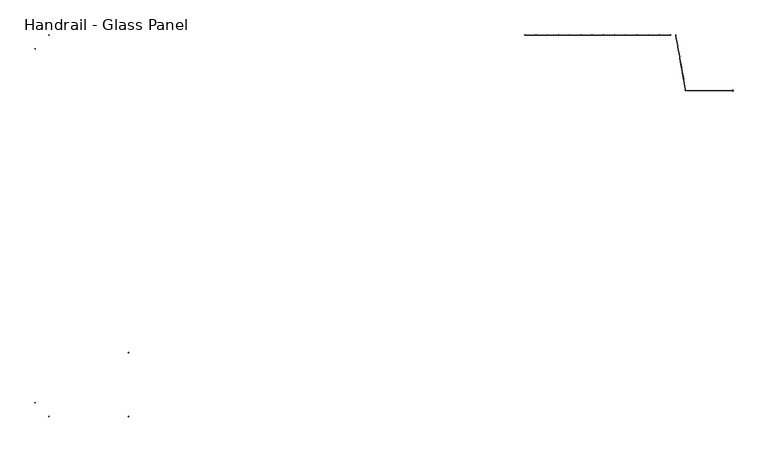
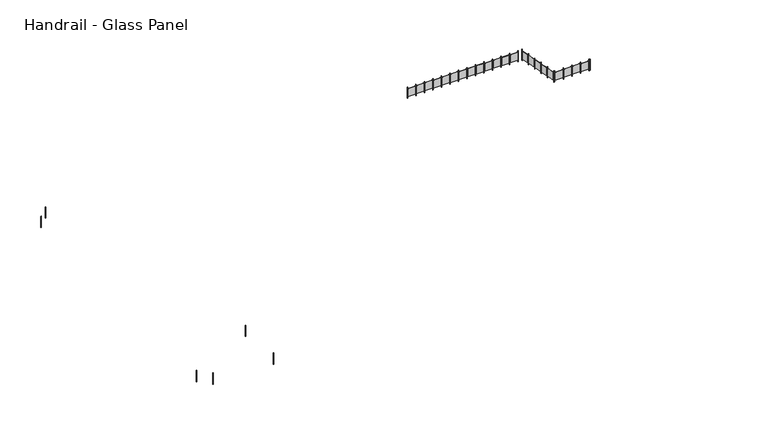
"""IFC4 building model written with IfcOpenShell, lengths in millimetres: railing geometry, Handrail - Glass Panel."""

import ifcopenshell
import ifcopenshell.guid

model = None  # the IFC model being written
_history = None  # IfcOwnerHistory: only IFC2X3 demands one
_inside = {}  # id of a spatial element -> (the spatial element, [elements in it])
_under = {}  # id of a project, library or spatial element -> (it, [spatial elements below it])
_declared = {}  # id of a project -> (the project, [libraries it declares])
_typed = {}  # id of a type object -> (the type object, [elements of that type])
_made_of = {}  # id of a material, layer set ... -> (it, [elements and type objects made of it])


def new_model(schema):
    """Start an empty IFC model of exactly this schema.

    Asked for "IFC4X3", IfcOpenShell would pick the latest addendum, in which some entities
    have other attributes; the version numbers below select the first issue.
    IFC2X3 requires an IfcOwnerHistory on every rooted entity: one is made here for all.
    """
    global model, _history
    if schema == "IFC4X3":
        model = ifcopenshell.file(schema_version=(4, 3, 0, 0))
    else:
        model = ifcopenshell.file(schema=schema)
    _inside.clear()
    _under.clear()
    _declared.clear()
    _typed.clear()
    _made_of.clear()
    _history = None
    if model.schema == "IFC2X3":
        org = make("IfcOrganization", Name="unknown")
        user = make(
            "IfcPersonAndOrganization",
            ThePerson=make("IfcPerson", FamilyName="unknown"),
            TheOrganization=org,
        )
        app = make(
            "IfcApplication",
            ApplicationDeveloper=org,
            Version="unknown",
            ApplicationFullName="unknown",
            ApplicationIdentifier="unknown",
        )
        _history = make(
            "IfcOwnerHistory",
            OwningUser=user,
            OwningApplication=app,
            ChangeAction="ADDED",
            CreationDate=0,
        )
    return model


def make(cls, **values):
    """One entity of the class cls with the attributes given. An attribute that is None is left unset."""
    return model.create_entity(
        cls, **{name: value for name, value in values.items() if value is not None}
    )


def rooted(cls, **values):
    """An entity with a GlobalId (a new one), such as an element, a storey or a relation."""
    return make(cls, GlobalId=ifcopenshell.guid.new(), OwnerHistory=_history, **values)


def si_unit(unit_type, name, prefix=None):
    """IfcSIUnit, for example si_unit("LENGTHUNIT", "METRE", prefix="MILLI")."""
    return make("IfcSIUnit", UnitType=unit_type, Prefix=prefix, Name=name)


def assignment(units):
    """IfcUnitAssignment: the units of a project."""
    return None if units is None else make("IfcUnitAssignment", Units=units)


def point(xyz):
    """IfcCartesianPoint."""
    return None if xyz is None else make("IfcCartesianPoint", Coordinates=xyz)


def direction(xyz):
    """IfcDirection."""
    return None if xyz is None else make("IfcDirection", DirectionRatios=xyz)


def frame(location, z_axis=None, x_axis=None):
    """IfcAxis2Placement3D, a coordinate frame: its origin and axes. An axis left out is left unset."""
    return make(
        "IfcAxis2Placement3D",
        Location=point(location),
        Axis=direction(z_axis),
        RefDirection=direction(x_axis),
    )


def frame_2d(location, x_axis=None):
    """IfcAxis2Placement2D, a coordinate frame in the plane: its origin and x axis."""
    return make(
        "IfcAxis2Placement2D", Location=point(location), RefDirection=direction(x_axis)
    )


def origin():
    """The frame at (0, 0, 0) with its axes left unset."""
    return frame((0.0, 0.0, 0.0))


def place(relative_to, where):
    """IfcLocalPlacement: puts the frame where relative to a parent placement (None: the world)."""
    return make(
        "IfcLocalPlacement", PlacementRelTo=relative_to, RelativePlacement=where
    )


def context(
    kind, dimensions, precision=None, world=None, true_north=None, identifier=None
):
    """IfcGeometricRepresentationContext, for example the 3D "Model" context."""
    return make(
        "IfcGeometricRepresentationContext",
        ContextIdentifier=identifier,
        ContextType=kind,
        CoordinateSpaceDimension=dimensions,
        Precision=precision,
        WorldCoordinateSystem=world,
        TrueNorth=true_north,
    )


def project(units=None, contexts=None):
    """IfcProject with its units and contexts."""
    return rooted(
        "IfcProject",
        Name="project",
        RepresentationContexts=contexts,
        UnitsInContext=assignment(units),
    )


def spatial(cls, under=None, at=None, **own):
    """A site, building, storey or space (cls), placed at a placement, below another one or the project."""
    s = rooted(cls, ObjectPlacement=at, **own)
    if under is not None:
        _under.setdefault(under.id(), (under, []))[1].append(s)
    return s


def polyline(points):
    """IfcPolyline through the points."""
    return make("IfcPolyline", Points=[point(p) for p in points])


def circle_curve(where, radius):
    """IfcCircle in the frame where."""
    return make("IfcCircle", Position=where, Radius=radius)


def trimmed(basis, trim1, trim2, sense, master):
    """IfcTrimmedCurve: the piece of a basis curve between two trims."""
    return make(
        "IfcTrimmedCurve",
        BasisCurve=basis,
        Trim1=trim1,
        Trim2=trim2,
        SenseAgreement=sense,
        MasterRepresentation=master,
    )


def segment(curve, same_sense, transition):
    """IfcCompositeCurveSegment."""
    return make(
        "IfcCompositeCurveSegment",
        Transition=transition,
        SameSense=same_sense,
        ParentCurve=curve,
    )


def composite_curve(segments, self_intersect=None):
    """IfcCompositeCurve: segments joined end to end."""
    return make("IfcCompositeCurve", Segments=segments, SelfIntersect=self_intersect)


def outline(outer, holes=None, kind="AREA"):
    """IfcArbitraryClosedProfileDef: a profile drawn as a closed curve; with holes, ...WithVoids."""
    if holes is None:
        return make("IfcArbitraryClosedProfileDef", ProfileType=kind, OuterCurve=outer)
    return make(
        "IfcArbitraryProfileDefWithVoids",
        ProfileType=kind,
        OuterCurve=outer,
        InnerCurves=holes,
    )


def extrude(swept, where, along, depth):
    """IfcExtrudedAreaSolid: the profile swept, set in the frame where, extruded along a direction by depth."""
    return make(
        "IfcExtrudedAreaSolid",
        SweptArea=swept,
        Position=where,
        ExtrudedDirection=direction(along),
        Depth=depth,
    )


def shape(context_of_items, identifier, shape_type, items):
    """IfcShapeRepresentation: the items that make up one representation, for example the "Body"."""
    return make(
        "IfcShapeRepresentation",
        ContextOfItems=context_of_items,
        RepresentationIdentifier=identifier,
        RepresentationType=shape_type,
        Items=items,
    )


def source(mapping_origin, context_of_items, identifier, shape_type, items):
    """IfcRepresentationMap: a shape defined once, which mapped items show again and again."""
    return make(
        "IfcRepresentationMap",
        MappingOrigin=mapping_origin,
        MappedRepresentation=shape(context_of_items, identifier, shape_type, items),
    )


def transform(
    local_origin,
    x_axis=None,
    y_axis=None,
    z_axis=None,
    scale=None,
    scale2=None,
    scale3=None,
    uniform=True,
):
    """IfcCartesianTransformationOperator3D, or its non-uniform kind. x_axis, y_axis, z_axis: its Axis1, 2, 3."""
    if uniform:
        return make(
            "IfcCartesianTransformationOperator3D",
            Axis1=direction(x_axis),
            Axis2=direction(y_axis),
            LocalOrigin=point(local_origin),
            Scale=scale,
            Axis3=direction(z_axis),
        )
    return make(
        "IfcCartesianTransformationOperator3DnonUniform",
        Axis1=direction(x_axis),
        Axis2=direction(y_axis),
        LocalOrigin=point(local_origin),
        Scale=scale,
        Axis3=direction(z_axis),
        Scale2=scale2,
        Scale3=scale3,
    )


def mapped(mapping_source, mapping_target):
    """IfcMappedItem: shows the shape of a source again, moved by a transform."""
    return make(
        "IfcMappedItem", MappingSource=mapping_source, MappingTarget=mapping_target
    )


def made_of(thing, what):
    """Note that an element or type object is made of a material, layer set ...; save() writes the relation."""
    if what is not None:
        _made_of.setdefault(what.id(), (what, []))[1].append(thing)
    return thing


def element(
    cls,
    number,
    at=None,
    inside=None,
    cuts=None,
    type_object=None,
    material=None,
    context=None,
    identifier="Body",
    shape_type=None,
    held_by="IfcProductDefinitionShape",
    body=None,
    shapes=None,
    **own,
):
    """One element of the class cls, such as IfcWall. Its Tag is "e" and its number.

    at: its placement. inside: the storey or other place that contains it. cuts: it is an
    opening in that element (IfcRelVoidsElement). A single representation is given by context,
    identifier, shape_type and body (its items); several are given by shapes. held_by: the class
    of the entity that holds the representations. save() writes the other relations.
    """
    e = rooted(cls, Tag="e%d" % number, ObjectPlacement=at, **own)
    if body is not None:
        shapes = [shape(context, identifier, shape_type, body)]
    if shapes is not None:
        e.Representation = make(held_by, Representations=shapes)
    if inside is not None:
        _inside.setdefault(inside.id(), (inside, []))[1].append(e)
    if cuts is not None:
        rooted(
            "IfcRelVoidsElement", RelatingBuildingElement=cuts, RelatedOpeningElement=e
        )
    if type_object is not None:
        _typed.setdefault(type_object.id(), (type_object, []))[1].append(e)
    return made_of(e, material)


def aggregate(whole, parts):
    """IfcRelAggregates: a whole, such as a stair, and the parts it consists of."""
    return rooted("IfcRelAggregates", RelatingObject=whole, RelatedObjects=parts)


def save(model, path):
    """Write the relations noted so far, then the file.

    IfcRelAggregates (storeys below a building ...), IfcRelContainedInSpatialStructure (elements
    in a storey), IfcRelDefinesByType, IfcRelAssociatesMaterial and IfcRelDeclares: one each for
    every whole, place, type object, material and project.
    """
    for whole, parts in _under.values():
        aggregate(whole, parts)
    for where, things in _inside.values():
        rooted(
            "IfcRelContainedInSpatialStructure",
            RelatedElements=things,
            RelatingStructure=where,
        )
    for kind, things in _typed.values():
        rooted("IfcRelDefinesByType", RelatedObjects=things, RelatingType=kind)
    for what, things in _made_of.values():
        rooted("IfcRelAssociatesMaterial", RelatedObjects=things, RelatingMaterial=what)
    for by, libraries in _declared.values():
        rooted("IfcRelDeclares", RelatingContext=by, RelatedDefinitions=libraries)
    model.write(path)


def handrail_glass_panel_57716c22(model_context):
    return source(origin(), model_context, "Body", "SweptSolid", [
        extrude(outline(polyline([(8084.8799808, 8532.3101347), (8084.8799808, 8513.2601347), (8065.8299808, 8513.2601347), (8065.8299808, 8532.3101347), (8084.8799808, 8532.3101347)])), frame((0.0, 0.0, 4650.0), z_axis=(0.0, 0.0, 1.0), x_axis=(1.0, 0.0, 0.0)), (0.0, 0.0, 1.0), 863.6),
        extrude(outline(polyline([(8672.2549808, 8516.4351347), (8113.4549808, 8516.4351347), (8113.4549808, 8522.7851347), (8672.2549808, 8522.7851347), (8672.2549808, 8516.4351347)])), frame((0.0, 0.0, 4777.0), z_axis=(0.0, 0.0, 1.0), x_axis=(1.0, 0.0, 0.0)), (0.0, 0.0, 1.0), 635.0),
        extrude(outline(polyline([(8719.8799808, 8532.3101347), (8719.8799808, 8513.2601347), (8700.8299808, 8513.2601347), (8700.8299808, 8532.3101347), (8719.8799808, 8532.3101347)])), frame((0.0, 0.0, 4650.0), z_axis=(0.0, 0.0, 1.0), x_axis=(1.0, 0.0, 0.0)), (0.0, 0.0, 1.0), 863.6),
        extrude(outline(polyline([(9307.2549808, 8516.4351347), (8748.4549808, 8516.4351347), (8748.4549808, 8522.7851347), (9307.2549808, 8522.7851347), (9307.2549808, 8516.4351347)])), frame((0.0, 0.0, 4777.0), z_axis=(0.0, 0.0, 1.0), x_axis=(1.0, 0.0, 0.0)), (0.0, 0.0, 1.0), 635.0),
        extrude(outline(polyline([(9354.8799808, 8532.3101347), (9354.8799808, 8513.2601347), (9335.8299808, 8513.2601347), (9335.8299808, 8532.3101347), (9354.8799808, 8532.3101347)])), frame((0.0, 0.0, 4650.0), z_axis=(0.0, 0.0, 1.0), x_axis=(1.0, 0.0, 0.0)), (0.0, 0.0, 1.0), 863.6),
        extrude(outline(polyline([(9942.2549808, 8516.4351347), (9383.4549808, 8516.4351347), (9383.4549808, 8522.7851347), (9942.2549808, 8522.7851347), (9942.2549808, 8516.4351347)])), frame((0.0, 0.0, 4777.0), z_axis=(0.0, 0.0, 1.0), x_axis=(1.0, 0.0, 0.0)), (0.0, 0.0, 1.0), 635.0),
        extrude(outline(polyline([(9989.8799808, 8532.3101347), (9989.8799808, 8513.2601347), (9970.8299808, 8513.2601347), (9970.8299808, 8532.3101347), (9989.8799808, 8532.3101347)])), frame((0.0, 0.0, 4650.0), z_axis=(0.0, 0.0, 1.0), x_axis=(1.0, 0.0, 0.0)), (0.0, 0.0, 1.0), 863.6),
        extrude(outline(polyline([(10577.2549808, 8516.4351347), (10018.4549808, 8516.4351347), (10018.4549808, 8522.7851347), (10577.2549808, 8522.7851347), (10577.2549808, 8516.4351347)])), frame((0.0, 0.0, 4777.0), z_axis=(0.0, 0.0, 1.0), x_axis=(1.0, 0.0, 0.0)), (0.0, 0.0, 1.0), 635.0),
        extrude(outline(polyline([(10624.8799808, 8532.3101347), (10624.8799808, 8513.2601347), (10605.8299808, 8513.2601347), (10605.8299808, 8532.3101347), (10624.8799808, 8532.3101347)])), frame((0.0, 0.0, 4650.0), z_axis=(0.0, 0.0, 1.0), x_axis=(1.0, 0.0, 0.0)), (0.0, 0.0, 1.0), 863.6),
        extrude(outline(polyline([(11212.2549808, 8516.4351347), (10653.4549808, 8516.4351347), (10653.4549808, 8522.7851347), (11212.2549808, 8522.7851347), (11212.2549808, 8516.4351347)])), frame((0.0, 0.0, 4777.0), z_axis=(0.0, 0.0, 1.0), x_axis=(1.0, 0.0, 0.0)), (0.0, 0.0, 1.0), 635.0),
        extrude(outline(polyline([(11259.8799808, 8532.3101347), (11259.8799808, 8513.2601347), (11240.8299808, 8513.2601347), (11240.8299808, 8532.3101347), (11259.8799808, 8532.3101347)])), frame((0.0, 0.0, 4650.0), z_axis=(0.0, 0.0, 1.0), x_axis=(1.0, 0.0, 0.0)), (0.0, 0.0, 1.0), 863.6),
        extrude(outline(polyline([(11847.2549808, 8516.4351347), (11288.4549808, 8516.4351347), (11288.4549808, 8522.7851347), (11847.2549808, 8522.7851347), (11847.2549808, 8516.4351347)])), frame((0.0, 0.0, 4777.0), z_axis=(0.0, 0.0, 1.0), x_axis=(1.0, 0.0, 0.0)), (0.0, 0.0, 1.0), 635.0),
        extrude(outline(polyline([(11894.8799808, 8532.3101347), (11894.8799808, 8513.2601347), (11875.8299808, 8513.2601347), (11875.8299808, 8532.3101347), (11894.8799808, 8532.3101347)])), frame((0.0, 0.0, 4650.0), z_axis=(0.0, 0.0, 1.0), x_axis=(1.0, 0.0, 0.0)), (0.0, 0.0, 1.0), 863.6),
        extrude(outline(polyline([(12482.2549808, 8516.4351347), (11923.4549808, 8516.4351347), (11923.4549808, 8522.7851347), (12482.2549808, 8522.7851347), (12482.2549808, 8516.4351347)])), frame((0.0, 0.0, 4777.0), z_axis=(0.0, 0.0, 1.0), x_axis=(1.0, 0.0, 0.0)), (0.0, 0.0, 1.0), 635.0),
        extrude(outline(polyline([(12529.8799808, 8532.3101347), (12529.8799808, 8513.2601347), (12510.8299808, 8513.2601347), (12510.8299808, 8532.3101347), (12529.8799808, 8532.3101347)])), frame((0.0, 0.0, 4650.0), z_axis=(0.0, 0.0, 1.0), x_axis=(1.0, 0.0, 0.0)), (0.0, 0.0, 1.0), 863.6),
        extrude(outline(polyline([(13117.2549808, 8516.4351347), (12558.4549808, 8516.4351347), (12558.4549808, 8522.7851347), (13117.2549808, 8522.7851347), (13117.2549808, 8516.4351347)])), frame((0.0, 0.0, 4777.0), z_axis=(0.0, 0.0, 1.0), x_axis=(1.0, 0.0, 0.0)), (0.0, 0.0, 1.0), 635.0),
        extrude(outline(polyline([(13164.8799808, 8532.3101347), (13164.8799808, 8513.2601347), (13145.8299808, 8513.2601347), (13145.8299808, 8532.3101347), (13164.8799808, 8532.3101347)])), frame((0.0, 0.0, 4650.0), z_axis=(0.0, 0.0, 1.0), x_axis=(1.0, 0.0, 0.0)), (0.0, 0.0, 1.0), 863.6),
        extrude(outline(polyline([(13752.2549808, 8516.4351347), (13193.4549808, 8516.4351347), (13193.4549808, 8522.7851347), (13752.2549808, 8522.7851347), (13752.2549808, 8516.4351347)])), frame((0.0, 0.0, 4777.0), z_axis=(0.0, 0.0, 1.0), x_axis=(1.0, 0.0, 0.0)), (0.0, 0.0, 1.0), 635.0),
        extrude(outline(polyline([(13799.8799808, 8532.3101347), (13799.8799808, 8513.2601347), (13780.8299808, 8513.2601347), (13780.8299808, 8532.3101347), (13799.8799808, 8532.3101347)])), frame((0.0, 0.0, 4650.0), z_axis=(0.0, 0.0, 1.0), x_axis=(1.0, 0.0, 0.0)), (0.0, 0.0, 1.0), 863.6),
        extrude(outline(polyline([(14387.2549808, 8516.4351347), (13828.4549808, 8516.4351347), (13828.4549808, 8522.7851347), (14387.2549808, 8522.7851347), (14387.2549808, 8516.4351347)])), frame((0.0, 0.0, 4777.0), z_axis=(0.0, 0.0, 1.0), x_axis=(1.0, 0.0, 0.0)), (0.0, 0.0, 1.0), 635.0),
        extrude(outline(polyline([(14434.8799808, 8532.3101347), (14434.8799808, 8513.2601347), (14415.8299808, 8513.2601347), (14415.8299808, 8532.3101347), (14434.8799808, 8532.3101347)])), frame((0.0, 0.0, 4650.0), z_axis=(0.0, 0.0, 1.0), x_axis=(1.0, 0.0, 0.0)), (0.0, 0.0, 1.0), 863.6),
        extrude(outline(polyline([(15022.2549808, 8516.4351347), (14463.4549808, 8516.4351347), (14463.4549808, 8522.7851347), (15022.2549808, 8522.7851347), (15022.2549808, 8516.4351347)])), frame((0.0, 0.0, 4777.0), z_axis=(0.0, 0.0, 1.0), x_axis=(1.0, 0.0, 0.0)), (0.0, 0.0, 1.0), 635.0),
        extrude(outline(polyline([(15069.8799808, 8532.3101347), (15069.8799808, 8513.2601347), (15050.8299808, 8513.2601347), (15050.8299808, 8532.3101347), (15069.8799808, 8532.3101347)])), frame((0.0, 0.0, 4650.0), z_axis=(0.0, 0.0, 1.0), x_axis=(1.0, 0.0, 0.0)), (0.0, 0.0, 1.0), 863.6),
        extrude(outline(polyline([(15657.2549808, 8516.4351347), (15098.4549808, 8516.4351347), (15098.4549808, 8522.7851347), (15657.2549808, 8522.7851347), (15657.2549808, 8516.4351347)])), frame((0.0, 0.0, 4777.0), z_axis=(0.0, 0.0, 1.0), x_axis=(1.0, 0.0, 0.0)), (0.0, 0.0, 1.0), 635.0),
        extrude(outline(polyline([(15704.8799808, 8532.3101347), (15704.8799808, 8513.2601347), (15685.8299808, 8513.2601347), (15685.8299808, 8532.3101347), (15704.8799808, 8532.3101347)])), frame((0.0, 0.0, 4650.0), z_axis=(0.0, 0.0, 1.0), x_axis=(1.0, 0.0, 0.0)), (0.0, 0.0, 1.0), 863.6),
        extrude(outline(polyline([(16292.2549808, 8516.4351347), (15733.4549808, 8516.4351347), (15733.4549808, 8522.7851347), (16292.2549808, 8522.7851347), (16292.2549808, 8516.4351347)])), frame((0.0, 0.0, 4777.0), z_axis=(0.0, 0.0, 1.0), x_axis=(1.0, 0.0, 0.0)), (0.0, 0.0, 1.0), 635.0),
        extrude(outline(polyline([(16339.8799808, 8532.3101347), (16339.8799808, 8513.2601347), (16320.8299808, 8513.2601347), (16320.8299808, 8532.3101347), (16339.8799808, 8532.3101347)])), frame((0.0, 0.0, 4650.0), z_axis=(0.0, 0.0, 1.0), x_axis=(1.0, 0.0, 0.0)), (0.0, 0.0, 1.0), 863.6),
        extrude(outline(polyline([(16636.3793568, 8503.4411477), (16617.6187691, 8500.1331499), (16614.3107713, 8518.8937376), (16633.071359, 8522.2017354), (16636.3793568, 8503.4411477)])), frame((0.0, 0.0, 4650.0), z_axis=(0.0, 0.0, 1.0), x_axis=(1.0, 0.0, 0.0)), (0.0, 0.0, 1.0), 863.6),
        extrude(outline(polyline([(16722.7421321, 7922.2330289), (16625.7075304, 8472.5436013), (16631.9610596, 8473.6462672), (16728.9956613, 7923.3356949), (16722.7421321, 7922.2330289)])), frame((0.0, 0.0, 4777.0), z_axis=(0.0, 0.0, 1.0), x_axis=(1.0, 0.0, 0.0)), (0.0, 0.0, 1.0), 635.0),
        extrude(outline(polyline([(16746.6459496, 7878.0882245), (16727.8853619, 7874.7802267), (16724.5773642, 7893.5408144), (16743.3379518, 7896.8488122), (16746.6459496, 7878.0882245)])), frame((0.0, 0.0, 4650.0), z_axis=(0.0, 0.0, 1.0), x_axis=(1.0, 0.0, 0.0)), (0.0, 0.0, 1.0), 863.6),
        extrude(outline(polyline([(16833.0087249, 7296.8801058), (16735.9741232, 7847.1906782), (16742.2276525, 7848.2933441), (16839.2622541, 7297.9827717), (16833.0087249, 7296.8801058)])), frame((0.0, 0.0, 4777.0), z_axis=(0.0, 0.0, 1.0), x_axis=(1.0, 0.0, 0.0)), (0.0, 0.0, 1.0), 635.0),
        extrude(outline(polyline([(16856.9125425, 7252.7353014), (16838.1519548, 7249.4273036), (16834.843957, 7268.1878913), (16853.6045447, 7271.4958891), (16856.9125425, 7252.7353014)])), frame((0.0, 0.0, 4650.0), z_axis=(0.0, 0.0, 1.0), x_axis=(1.0, 0.0, 0.0)), (0.0, 0.0, 1.0), 863.6),
        extrude(outline(polyline([(16943.2753177, 6671.5271826), (16846.240716, 7221.837755), (16852.4942453, 7222.9404209), (16949.528847, 6672.6298485), (16943.2753177, 6671.5271826)])), frame((0.0, 0.0, 4777.0), z_axis=(0.0, 0.0, 1.0), x_axis=(1.0, 0.0, 0.0)), (0.0, 0.0, 1.0), 635.0),
        extrude(outline(polyline([(16967.1791353, 6627.3823782), (16948.4185476, 6624.0743804), (16945.1105498, 6642.8349681), (16963.8711375, 6646.1429659), (16967.1791353, 6627.3823782)])), frame((0.0, 0.0, 4650.0), z_axis=(0.0, 0.0, 1.0), x_axis=(1.0, 0.0, 0.0)), (0.0, 0.0, 1.0), 863.6),
        extrude(outline(polyline([(17053.5419105, 6046.1742594), (16956.5073089, 6596.4848318), (16962.7608381, 6597.5874978), (17059.7954398, 6047.2769254), (17053.5419105, 6046.1742594)])), frame((0.0, 0.0, 4777.0), z_axis=(0.0, 0.0, 1.0), x_axis=(1.0, 0.0, 0.0)), (0.0, 0.0, 1.0), 635.0),
        extrude(outline(polyline([(17077.4457281, 6002.029455), (17058.6851404, 5998.7214572), (17055.3771426, 6017.4820449), (17074.1377303, 6020.7900427), (17077.4457281, 6002.029455)])), frame((0.0, 0.0, 4650.0), z_axis=(0.0, 0.0, 1.0), x_axis=(1.0, 0.0, 0.0)), (0.0, 0.0, 1.0), 863.6),
        extrude(outline(polyline([(17163.8085034, 5420.8213363), (17066.7739017, 5971.1319087), (17073.0274309, 5972.2345746), (17170.0620326, 5421.9240022), (17163.8085034, 5420.8213363)])), frame((0.0, 0.0, 4777.0), z_axis=(0.0, 0.0, 1.0), x_axis=(1.0, 0.0, 0.0)), (0.0, 0.0, 1.0), 635.0),
        extrude(outline(polyline([(17187.7123209, 5376.6765319), (17168.9517332, 5373.3685341), (17165.6437354, 5392.1291218), (17184.4043231, 5395.4371196), (17187.7123209, 5376.6765319)])), frame((0.0, 0.0, 4650.0), z_axis=(0.0, 0.0, 1.0), x_axis=(1.0, 0.0, 0.0)), (0.0, 0.0, 1.0), 863.6),
        extrude(outline(polyline([(17257.5949754, 5382.3101347), (17257.5949754, 5363.2601347), (17238.5449754, 5363.2601347), (17238.5449754, 5382.3101347), (17257.5949754, 5382.3101347)])), frame((0.0, 0.0, 4650.0), z_axis=(0.0, 0.0, 1.0), x_axis=(1.0, 0.0, 0.0)), (0.0, 0.0, 1.0), 863.6),
        extrude(outline(polyline([(17844.9699754, 5366.4351347), (17286.1699754, 5366.4351347), (17286.1699754, 5372.7851347), (17844.9699754, 5372.7851347), (17844.9699754, 5366.4351347)])), frame((0.0, 0.0, 4777.0), z_axis=(0.0, 0.0, 1.0), x_axis=(1.0, 0.0, 0.0)), (0.0, 0.0, 1.0), 635.0),
        extrude(outline(polyline([(17892.5949754, 5382.3101347), (17892.5949754, 5363.2601347), (17873.5449754, 5363.2601347), (17873.5449754, 5382.3101347), (17892.5949754, 5382.3101347)])), frame((0.0, 0.0, 4650.0), z_axis=(0.0, 0.0, 1.0), x_axis=(1.0, 0.0, 0.0)), (0.0, 0.0, 1.0), 863.6),
        extrude(outline(polyline([(18479.9699754, 5366.4351347), (17921.1699754, 5366.4351347), (17921.1699754, 5372.7851347), (18479.9699754, 5372.7851347), (18479.9699754, 5366.4351347)])), frame((0.0, 0.0, 4777.0), z_axis=(0.0, 0.0, 1.0), x_axis=(1.0, 0.0, 0.0)), (0.0, 0.0, 1.0), 635.0),
        extrude(outline(polyline([(18527.5949754, 5382.3101347), (18527.5949754, 5363.2601347), (18508.5449754, 5363.2601347), (18508.5449754, 5382.3101347), (18527.5949754, 5382.3101347)])), frame((0.0, 0.0, 4650.0), z_axis=(0.0, 0.0, 1.0), x_axis=(1.0, 0.0, 0.0)), (0.0, 0.0, 1.0), 863.6),
        extrude(outline(polyline([(19114.9699754, 5366.4351347), (18556.1699754, 5366.4351347), (18556.1699754, 5372.7851347), (19114.9699754, 5372.7851347), (19114.9699754, 5366.4351347)])), frame((0.0, 0.0, 4777.0), z_axis=(0.0, 0.0, 1.0), x_axis=(1.0, 0.0, 0.0)), (0.0, 0.0, 1.0), 635.0),
        extrude(outline(polyline([(19162.5949754, 5382.3101347), (19162.5949754, 5363.2601347), (19143.5449754, 5363.2601347), (19143.5449754, 5382.3101347), (19162.5949754, 5382.3101347)])), frame((0.0, 0.0, 4650.0), z_axis=(0.0, 0.0, 1.0), x_axis=(1.0, 0.0, 0.0)), (0.0, 0.0, 1.0), 863.6),
        extrude(outline(polyline([(19749.9699754, 5366.4351347), (19191.1699754, 5366.4351347), (19191.1699754, 5372.7851347), (19749.9699754, 5372.7851347), (19749.9699754, 5366.4351347)])), frame((0.0, 0.0, 4777.0), z_axis=(0.0, 0.0, 1.0), x_axis=(1.0, 0.0, 0.0)), (0.0, 0.0, 1.0), 635.0),
        extrude(outline(polyline([(19797.5949754, 5382.3101347), (19797.5949754, 5363.2601347), (19778.5449754, 5363.2601347), (19778.5449754, 5382.3101347), (19797.5949754, 5382.3101347)])), frame((0.0, 0.0, 4650.0), z_axis=(0.0, 0.0, 1.0), x_axis=(1.0, 0.0, 0.0)), (0.0, 0.0, 1.0), 863.6),
        extrude(outline(composite_curve([segment(trimmed(circle_curve(frame_2d((-14372.1865899, -13098.0148653)), 12.7), [point((-14372.1865899, -13085.3148653))], [point((-14372.1865899, -13110.7148653))], False, "CARTESIAN"), True, "CONTINUOUS"), segment(trimmed(circle_curve(frame_2d((-14372.1865899, -13098.0148653)), 12.7), [point((-14372.1865899, -13110.7148653))], [point((-14372.1865899, -13085.3148653))], False, "CARTESIAN"), True, "CONTINUOUS")], self_intersect=False)), frame((0.0, 0.0, 4650.0), z_axis=(0.0, 0.0, 1.0), x_axis=(1.0, 0.0, 0.0)), (0.0, 0.0, 1.0), 863.6),
        extrude(outline(composite_curve([segment(trimmed(circle_curve(frame_2d((-18887.5865899, -13098.0148653)), 12.7), [point((-18887.5865899, -13085.3148653))], [point((-18887.5865899, -13110.7148653))], False, "CARTESIAN"), True, "CONTINUOUS"), segment(trimmed(circle_curve(frame_2d((-18887.5865899, -13098.0148653)), 12.7), [point((-18887.5865899, -13110.7148653))], [point((-18887.5865899, -13085.3148653))], False, "CARTESIAN"), True, "CONTINUOUS")], self_intersect=False)), frame((0.0, 0.0, 4650.0), z_axis=(0.0, 0.0, 1.0), x_axis=(1.0, 0.0, 0.0)), (0.0, 0.0, 1.0), 863.6),
        extrude(outline(composite_curve([segment(trimmed(circle_curve(frame_2d((-19662.9865899, -12322.6148653)), 12.7), [point((-19650.2865899, -12322.6148653))], [point((-19675.6865899, -12322.6148653))], False, "CARTESIAN"), True, "CONTINUOUS"), segment(trimmed(circle_curve(frame_2d((-19662.9865899, -12322.6148653)), 12.7), [point((-19675.6865899, -12322.6148653))], [point((-19650.2865899, -12322.6148653))], False, "CARTESIAN"), True, "CONTINUOUS")], self_intersect=False)), frame((0.0, 0.0, 4650.0), z_axis=(0.0, 0.0, 1.0), x_axis=(1.0, 0.0, 0.0)), (0.0, 0.0, 1.0), 863.6),
        extrude(outline(composite_curve([segment(trimmed(circle_curve(frame_2d((-19662.9865899, 7747.3851347)), 12.7), [point((-19650.2865899, 7747.3851347))], [point((-19675.6865899, 7747.3851347))], False, "CARTESIAN"), True, "CONTINUOUS"), segment(trimmed(circle_curve(frame_2d((-19662.9865899, 7747.3851347)), 12.7), [point((-19675.6865899, 7747.3851347))], [point((-19650.2865899, 7747.3851347))], False, "CARTESIAN"), True, "CONTINUOUS")], self_intersect=False)), frame((0.0, 0.0, 4650.0), z_axis=(0.0, 0.0, 1.0), x_axis=(1.0, 0.0, 0.0)), (0.0, 0.0, 1.0), 863.6),
        extrude(outline(composite_curve([segment(trimmed(circle_curve(frame_2d((-18887.5865899, 8522.7851347)), 12.7), [point((-18887.5865899, 8510.0851347))], [point((-18887.5865899, 8535.4851347))], False, "CARTESIAN"), True, "CONTINUOUS"), segment(trimmed(circle_curve(frame_2d((-18887.5865899, 8522.7851347)), 12.7), [point((-18887.5865899, 8535.4851347))], [point((-18887.5865899, 8510.0851347))], False, "CARTESIAN"), True, "CONTINUOUS")], self_intersect=False)), frame((0.0, 0.0, 4650.0), z_axis=(0.0, 0.0, 1.0), x_axis=(1.0, 0.0, 0.0)), (0.0, 0.0, 1.0), 863.6),
        extrude(outline(composite_curve([segment(trimmed(circle_curve(frame_2d((16623.2965515, 8522.7851347)), 12.7), [point((16610.789493, 8520.5798029))], [point((16635.80361, 8524.9904666))], False, "CARTESIAN"), True, "CONTINUOUS"), segment(trimmed(circle_curve(frame_2d((16623.2965515, 8522.7851347)), 12.7), [point((16635.80361, 8524.9904666))], [point((16610.789493, 8520.5798029))], False, "CARTESIAN"), True, "CONTINUOUS")], self_intersect=False)), frame((0.0, 0.0, 4650.0), z_axis=(0.0, 0.0, 1.0), x_axis=(1.0, 0.0, 0.0)), (0.0, 0.0, 1.0), 863.6),
        extrude(outline(composite_curve([segment(trimmed(circle_curve(frame_2d((17178.7265407, 5372.7851347)), 12.7), [point((17178.7265407, 5360.0851347))], [point((17178.7265407, 5385.4851347))], False, "CARTESIAN"), True, "CONTINUOUS"), segment(trimmed(circle_curve(frame_2d((17178.7265407, 5372.7851347)), 12.7), [point((17178.7265407, 5385.4851347))], [point((17178.7265407, 5360.0851347))], False, "CARTESIAN"), True, "CONTINUOUS")], self_intersect=False)), frame((0.0, 0.0, 4650.0), z_axis=(0.0, 0.0, 1.0), x_axis=(1.0, 0.0, 0.0)), (0.0, 0.0, 1.0), 863.6),
        extrude(outline(composite_curve([segment(trimmed(circle_curve(frame_2d((-14372.1865899, -9482.1398653)), 12.7), [point((-14384.8865899, -9482.1398653))], [point((-14359.4865899, -9482.1398653))], False, "CARTESIAN"), True, "CONTINUOUS"), segment(trimmed(circle_curve(frame_2d((-14372.1865899, -9482.1398653)), 12.7), [point((-14359.4865899, -9482.1398653))], [point((-14384.8865899, -9482.1398653))], False, "CARTESIAN"), True, "CONTINUOUS")], self_intersect=False)), frame((0.0, 0.0, 4650.0), z_axis=(0.0, 0.0, 1.0), x_axis=(1.0, 0.0, 0.0)), (0.0, 0.0, 1.0), 863.6),
        extrude(outline(polyline([(19866.9384101, 5391.8351347), (19866.9384101, 5353.7351347), (19828.8384101, 5353.7351347), (19828.8384101, 5391.8351347), (19866.9384101, 5391.8351347)])), frame((0.0, 0.0, 4650.0), z_axis=(0.0, 0.0, 1.0), x_axis=(1.0, 0.0, 0.0)), (0.0, 0.0, 1.0), 863.6),
    ])


if __name__ == "__main__":
    model = new_model("IFC4")
    model_context = context("Model", 3, world=origin())
    ifc_project = project(units=[si_unit("LENGTHUNIT", "METRE", prefix="MILLI")], contexts=[model_context])
    site = spatial("IfcSite", under=ifc_project)
    building = spatial("IfcBuilding", under=site)
    placement = place(None, origin())
    handrail_glass_panel_shape = handrail_glass_panel_57716c22(model_context)
    element("IfcRailing", 1, ObjectType="Handrail - Glass Panel", at=placement, inside=building, context=model_context, shape_type="MappedRepresentation", body=[
        mapped(handrail_glass_panel_shape, transform((0.0, 0.0, 0.0), x_axis=(1.0, 0.0, 0.0), y_axis=(0.0, 1.0, 0.0), z_axis=(0.0, 0.0, 1.0))),
    ])
    save(model, "model.ifc")
